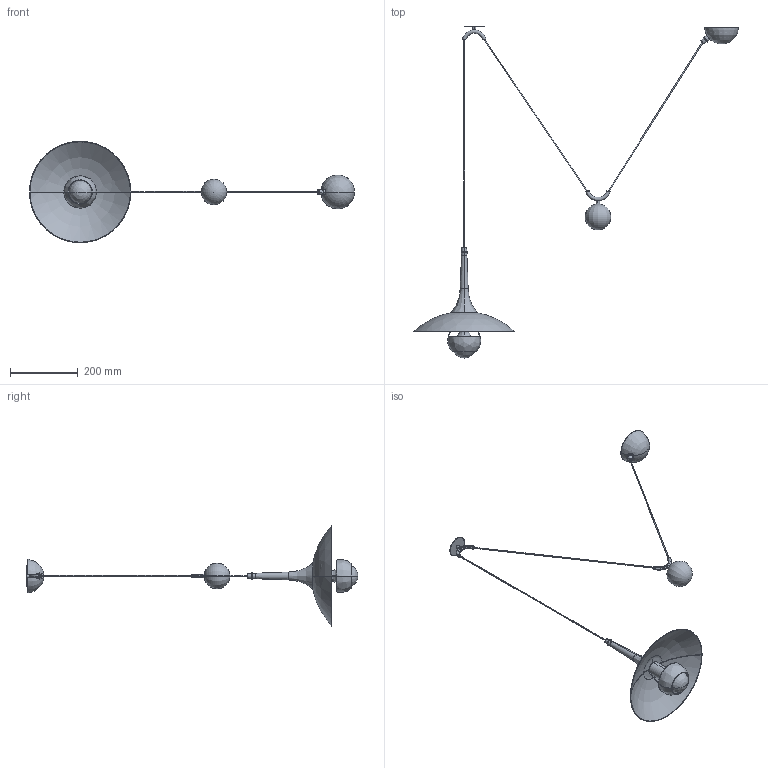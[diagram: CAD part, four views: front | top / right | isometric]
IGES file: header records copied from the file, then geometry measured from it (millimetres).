
Start section: SolidWorks IGES file using analytic representation for surfaces
Global section: file name: F:\燠隴矨\3D\2024-10堎\Onos Pendant Lamp-D30CM.IGS; native system: SolidWorks 2022; preprocessor: SolidWorks 2022; author: MyPC; date: 241016.084845; units: millimetre
Bounding box: 961.89 x 982.41 x 300 mm (x, y, z)
Surface area: 346567.6 mm2 (no closed solid volume)
Topology: 0 solids, 0 shells, 128 faces, 2250 edges, 2243 vertices
Faces by surface type: revolution 66, bspline 62
